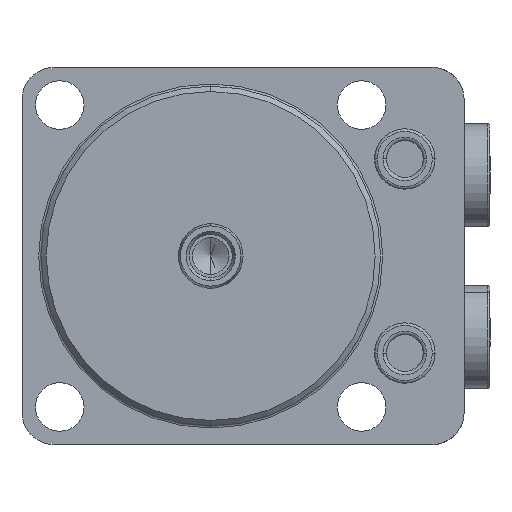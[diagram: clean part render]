
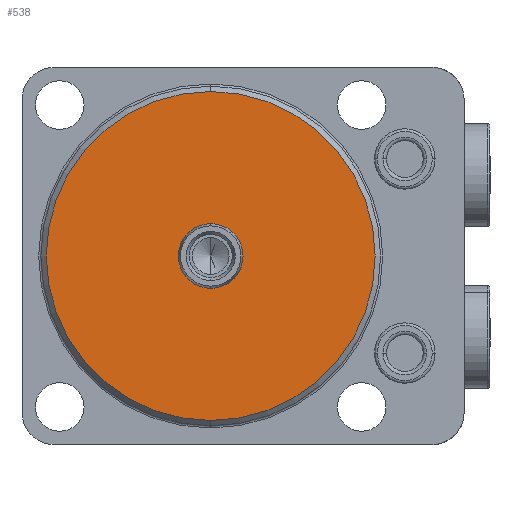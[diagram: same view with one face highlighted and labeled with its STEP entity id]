
A CAD part, front view. The second image highlights one B-rep face of the part: STEP entity #538.
In plain terms, the highlighted planar face has unit normal (0, -1, 0) as drawn and (0, 1, 0) by its records, which use the part's own axes.
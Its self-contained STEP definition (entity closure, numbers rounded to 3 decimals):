
#223=PLANE('',#3590);
#278=FACE_BOUND('',#971,.F.);
#279=FACE_BOUND('',#972,.F.);
#538=ADVANCED_FACE('',(#278,#279),#223,.T.);
#971=EDGE_LOOP('',(#2067,#2068));
#972=EDGE_LOOP('',(#2069,#2070));
#2067=ORIENTED_EDGE('',*,*,#2981,.T.);
#2068=ORIENTED_EDGE('',*,*,#2906,.T.);
#2069=ORIENTED_EDGE('',*,*,#2982,.T.);
#2070=ORIENTED_EDGE('',*,*,#2918,.T.);
#2516=VERTEX_POINT('',#5541);
#2517=VERTEX_POINT('',#5542);
#2528=VERTEX_POINT('',#5568);
#2529=VERTEX_POINT('',#5569);
#2906=EDGE_CURVE('',#2516,#2517,#3191,.T.);
#2918=EDGE_CURVE('',#2528,#2529,#3199,.T.);
#2981=EDGE_CURVE('',#2517,#2516,#3223,.T.);
#2982=EDGE_CURVE('',#2529,#2528,#3224,.T.);
#3191=CIRCLE('',#3539,6.);
#3199=CIRCLE('',#3550,30.5);
#3223=CIRCLE('',#3588,6.);
#3224=CIRCLE('',#3589,30.5);
#3539=AXIS2_PLACEMENT_3D('',#5540,#4378,#4379);
#3550=AXIS2_PLACEMENT_3D('',#5567,#4404,#4405);
#3588=AXIS2_PLACEMENT_3D('',#5700,#4514,#4515);
#3589=AXIS2_PLACEMENT_3D('',#5701,#4516,#4517);
#3590=AXIS2_PLACEMENT_3D('',#5702,#4518,#4519);
#4378=DIRECTION('',(0.,1.,0.));
#4379=DIRECTION('',(0.,0.,1.));
#4404=DIRECTION('',(0.,-1.,0.));
#4405=DIRECTION('',(0.,0.,1.));
#4514=DIRECTION('',(0.,1.,0.));
#4515=DIRECTION('',(0.,0.,1.));
#4516=DIRECTION('',(0.,-1.,0.));
#4517=DIRECTION('',(0.,0.,1.));
#4518=DIRECTION('',(0.,1.,0.));
#4519=DIRECTION('',(0.,0.,1.));
#5540=CARTESIAN_POINT('',(0.,0.,0.));
#5541=CARTESIAN_POINT('',(0.,0.,-6.));
#5542=CARTESIAN_POINT('',(0.,0.,6.));
#5567=CARTESIAN_POINT('',(0.,0.,0.));
#5568=CARTESIAN_POINT('',(0.,0.,-30.5));
#5569=CARTESIAN_POINT('',(0.,0.,30.5));
#5700=CARTESIAN_POINT('',(0.,0.,0.));
#5701=CARTESIAN_POINT('',(0.,0.,0.));
#5702=CARTESIAN_POINT('',(-35.,0.,35.));
